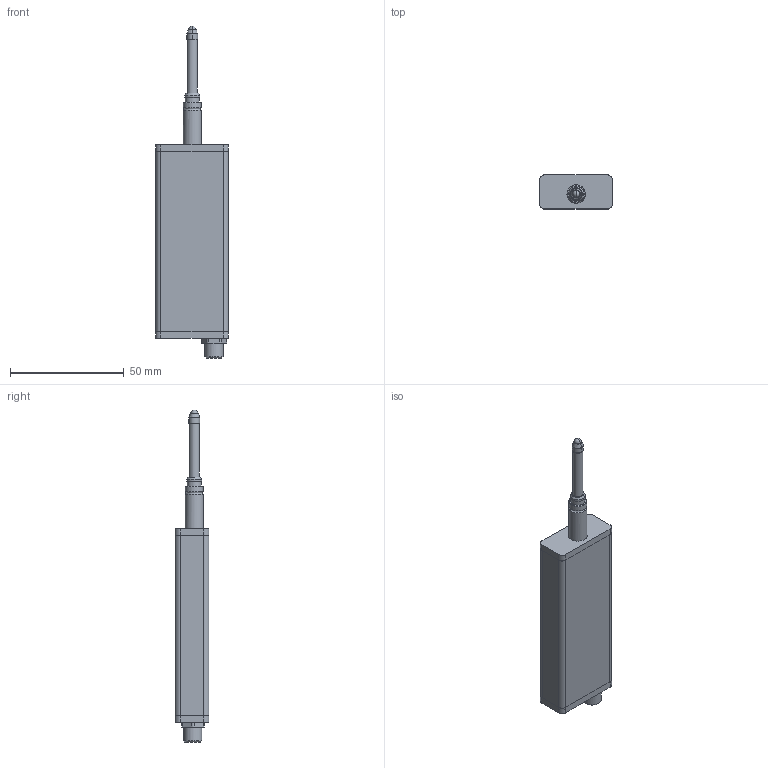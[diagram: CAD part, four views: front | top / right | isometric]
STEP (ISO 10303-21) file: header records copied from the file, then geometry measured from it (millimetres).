
FILE_DESCRIPTION(/* description */ (''),/* implementation_level */ '2;1');
FILE_NAME(/* name */ '薄测头千分普通款.stp',/* time_stamp */ '2024-05-11T17:20:11+08:00',/* author */ (''),/* organization */ (''),/* preprocessor_version */ 'ST-DEVELOPER v16.7',/* originating_system */ 'SIEMENS PLM Software NX 1919',/* authorisation */ '');
FILE_SCHEMA (('AUTOMOTIVE_DESIGN { 1 0 10303 214 3 1 1 1 }'));
Length unit declared in the file: millimetre
Products named in the file (1): jzBA6CC7D6as48
Bounding box: 32.02 x 14.92 x 146.1 mm (x, y, z)
Volume: 41541.6 mm3; surface area: 11837.3 mm2
Topology: 1 solids, 4 shells, 109 faces, 272 edges, 181 vertices
Faces by surface type: plane 48, cylinder 47, cone 7, bspline 4, sphere 2, torus 1
Full cylindrical faces by diameter (mm): 2.05 x1, 3 x1, 3.6 x4, 4.5 x1, 6.1 x1, 6.7 x1, 7.9 x1, 8 x3, 8.1 x1, 8.2 x1, 10 x1
Entity records: 3976 total; most frequent: CARTESIAN_POINT 678, DIRECTION 552, ORIENTED_EDGE 470, EDGE_CURVE 235, AXIS2_PLACEMENT_3D 219, VERTEX_POINT 169, EDGE_LOOP 157, LINE 114
